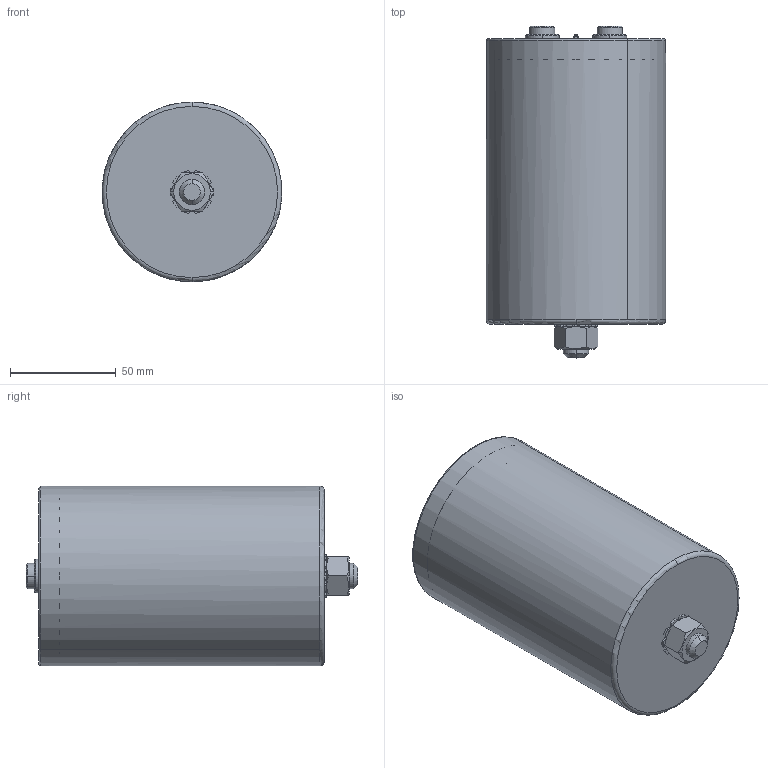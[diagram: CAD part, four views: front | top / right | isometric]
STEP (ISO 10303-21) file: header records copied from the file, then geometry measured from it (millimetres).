
FILE_DESCRIPTION (( 'STEP AP203' ), '1' );
FILE_NAME ('B25690Ax_85x135_141.STEP', '2021-08-30T08:22:06', ( '' ), ( '' ), 'SwSTEP 2.0', 'SolidWorks 2017', '' );
FILE_SCHEMA (( 'CONFIG_CONTROL_DESIGN' ));
Length unit declared in the file: millimetre
Products named in the file (1): B25690Ax_85x135_141
Bounding box: 84.88 x 157 x 85 mm (x, y, z)
Volume: 100362.3 mm3; surface area: 106074.6 mm2
Topology: 1 solids, 3 shells, 260 faces, 678 edges, 434 vertices
Faces by surface type: plane 122, cylinder 71, cone 41, torus 26
Entity records: 8399 total; most frequent: CARTESIAN_POINT 2041, ORIENTED_EDGE 1356, DIRECTION 1336, EDGE_CURVE 678, AXIS2_PLACEMENT_3D 537, VERTEX_POINT 434, CIRCLE 276, EDGE_LOOP 272
